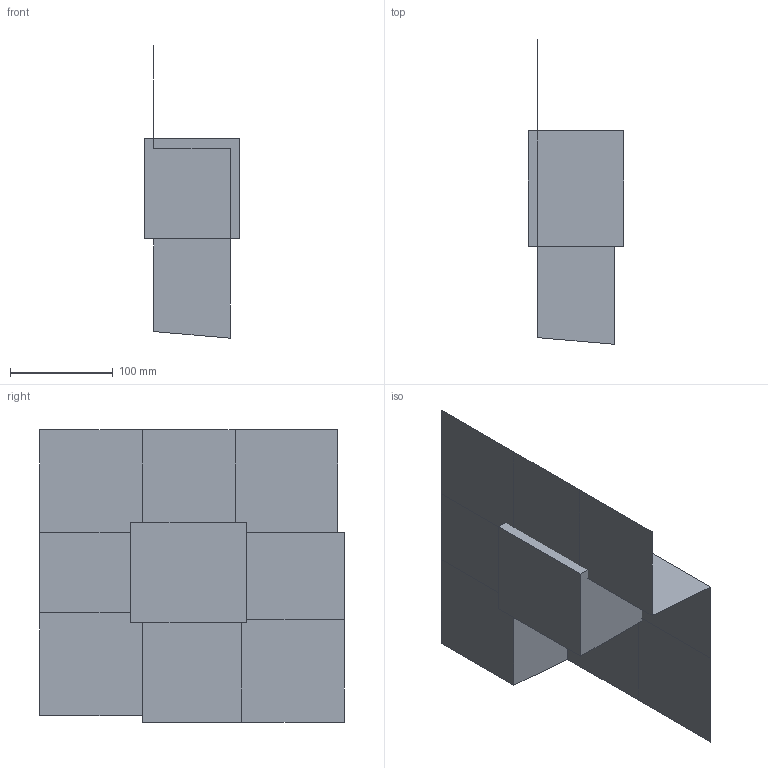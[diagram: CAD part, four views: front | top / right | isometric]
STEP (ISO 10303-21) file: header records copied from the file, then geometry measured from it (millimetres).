
FILE_DESCRIPTION(('CATIA V5 STEP Exchange'),'2;1');
FILE_NAME('C:\_Andres\UNIVERSIDAD\IQS\ASIGNATURAS\DAO\EXF\EXF-15161c\1original\Busquet_Ribera_Ej02-moldes_v3.stp','2016-03-04T15:45:32+00:00',('none'),('none'),'CATIA Version 5 Release 20 SP 1 (IN-10)','CATIA V5 STEP AP203','none');
FILE_SCHEMA(('CONFIG_CONTROL_DESIGN'));
Length unit declared in the file: millimetre
Products named in the file (1): Busquet_Ribera_Ej02-moldes_v3
Bounding box: 93 x 296.91 x 284.91 mm (x, y, z)
Volume: 2192392.7 mm3; surface area: 295319 mm2
Topology: 3 solids, 7 shells, 45 faces, 118 edges, 83 vertices
Faces by surface type: plane 41, cylinder 4
Entity records: 1101 total; most frequent: ORIENTED_EDGE 198, CARTESIAN_POINT 179, DIRECTION 147, EDGE_CURVE 83, VECTOR 73, LINE 73, VERTEX_POINT 56, EDGE_LOOP 49
